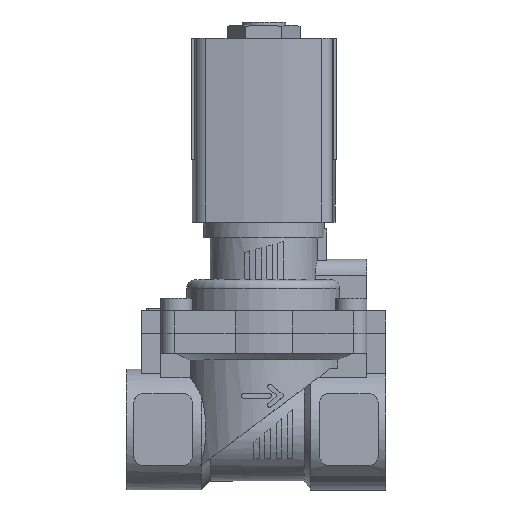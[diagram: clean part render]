
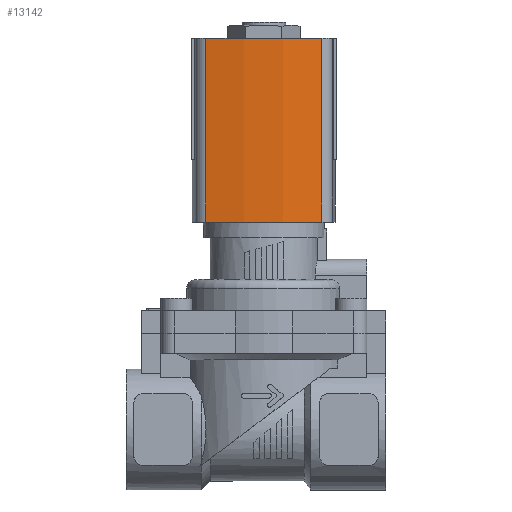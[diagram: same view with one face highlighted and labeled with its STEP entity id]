
A CAD part, top view. The second image highlights one B-rep face of the part: STEP entity #13142.
In plain terms, the highlighted cylindrical face has radius 60 mm (diameter 120 mm), a partial arc.
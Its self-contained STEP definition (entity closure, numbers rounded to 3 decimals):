
#241=CYLINDRICAL_SURFACE('',#14036,60.);
#1275=LINE('',#20107,#2391);
#1276=LINE('',#20111,#2392);
#2391=VECTOR('',#16673,1000.);
#2392=VECTOR('',#16678,1000.);
#4854=ORIENTED_EDGE('',*,*,#6920,.T.);
#4855=ORIENTED_EDGE('',*,*,#6921,.F.);
#4856=ORIENTED_EDGE('',*,*,#6206,.F.);
#4857=ORIENTED_EDGE('',*,*,#6919,.T.);
#6206=EDGE_CURVE('',#7496,#7497,#8238,.T.);
#6919=EDGE_CURVE('',#7496,#8002,#1275,.T.);
#6920=EDGE_CURVE('',#8002,#8003,#8332,.T.);
#6921=EDGE_CURVE('',#7497,#8003,#1276,.T.);
#7496=VERTEX_POINT('',#18761);
#7497=VERTEX_POINT('',#18763);
#8002=VERTEX_POINT('',#20106);
#8003=VERTEX_POINT('',#20110);
#8238=CIRCLE('',#13816,60.);
#8332=CIRCLE('',#14037,60.);
#8778=EDGE_LOOP('',(#4854,#4855,#4856,#4857));
#9379=FACE_BOUND('',#8778,.T.);
#13142=ADVANCED_FACE('',(#9379),#241,.T.);
#13816=AXIS2_PLACEMENT_3D('',#18762,#15614,#15615);
#14036=AXIS2_PLACEMENT_3D('',#20108,#16674,#16675);
#14037=AXIS2_PLACEMENT_3D('',#20109,#16676,#16677);
#15614=DIRECTION('',(0.,1.,0.));
#15615=DIRECTION('',(1.,0.,0.));
#16673=DIRECTION('',(0.,-1.,0.));
#16674=DIRECTION('',(0.,-1.,0.));
#16675=DIRECTION('',(0.,0.,-1.));
#16676=DIRECTION('',(0.,1.,0.));
#16677=DIRECTION('',(1.,0.,0.));
#16678=DIRECTION('',(0.,-1.,0.));
#18761=CARTESIAN_POINT('',(19.078,15.,12.986));
#18762=CARTESIAN_POINT('',(-39.5,15.,0.));
#18763=CARTESIAN_POINT('',(19.078,15.,-12.986));
#20106=CARTESIAN_POINT('',(19.078,-26.,12.986));
#20107=CARTESIAN_POINT('',(19.078,15.,12.986));
#20108=CARTESIAN_POINT('',(-39.5,15.,0.));
#20109=CARTESIAN_POINT('',(-39.5,-26.,0.));
#20110=CARTESIAN_POINT('',(19.078,-26.,-12.986));
#20111=CARTESIAN_POINT('',(19.078,15.,-12.986));
